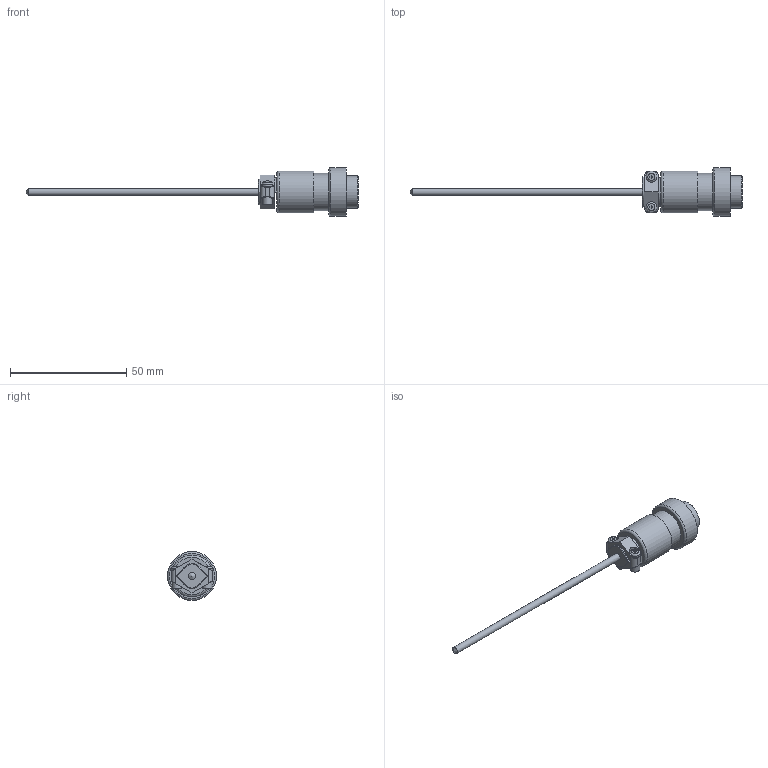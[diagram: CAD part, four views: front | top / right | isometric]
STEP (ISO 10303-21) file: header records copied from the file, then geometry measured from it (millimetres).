
FILE_DESCRIPTION (( 'STEP AP203' ), '1' );
FILE_NAME ('YIT90-1(0).step', '2025-05-28T07:14:46', ( '' ), ( '' ), 'SwSTEP 2.0', 'SolidWorks 2021', '' );
FILE_SCHEMA (( 'CONFIG_CONTROL_DESIGN' ));
Length unit declared in the file: millimetre
Products named in the file (1): YIT90-1(0)
Bounding box: 143 x 21 x 21 mm (x, y, z)
Volume: 9004 mm3; surface area: 5669.9 mm2
Topology: 4 solids, 4 shells, 82 faces, 194 edges, 127 vertices
Faces by surface type: plane 50, cylinder 20, torus 4, bspline 4, cone 2, sphere 2
Full cylindrical faces by diameter (mm): 2.5 x1, 3 x2, 4 x2, 4.7 x2, 4.8 x2, 13.5 x1, 14 x1, 16 x2, 18 x1, 21 x1
Entity records: 2381 total; most frequent: CARTESIAN_POINT 615, DIRECTION 328, ORIENTED_EDGE 316, EDGE_CURVE 158, EDGE_LOOP 118, VERTEX_POINT 116, AXIS2_PLACEMENT_3D 113, VECTOR 102
